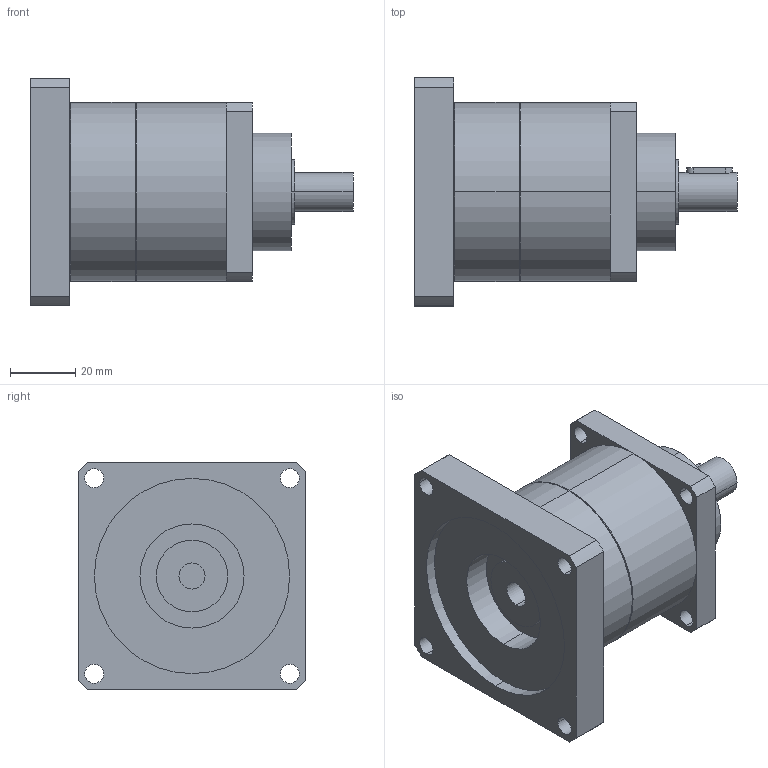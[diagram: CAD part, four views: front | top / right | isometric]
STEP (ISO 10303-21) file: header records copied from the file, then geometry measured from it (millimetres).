
FILE_DESCRIPTION(('CoCreate Modeling STEP Export'),'2;1');
FILE_NAME('GPT55_ig-3-4-5-7-10_12_B5A_8_P30.stp','2014-08-25T14:34:34',(''),(''),'CoCreate Modeling STEP processor for AP214 (Solid Model)','CoCreate Modeling 16.00C 25-Feb-2009 (C) Parametric Technology GmbH','');
FILE_SCHEMA(('AUTOMOTIVE_DESIGN { 1 0 10303 214 1 1 1 1 }'));
Length unit declared in the file: millimetre
Products named in the file (2): GPT55_ig-3-4-5-7-10_12_B5A_8_P30
Assembly tree (1 placements, depth 2):
  GPT55_ig-3-4-5-7-10_12_B5A_8_P30
    GPT55_ig-3-4-5-7-10_12_B5A_8_P30
Bounding box: 99 x 70 x 70 mm (x, y, z)
Volume: 192460.5 mm3; surface area: 30070.3 mm2
Topology: 1 solids, 1 shells, 77 faces, 205 edges, 140 vertices
Faces by surface type: cylinder 46, plane 27, cone 4
Entity records: 2520 total; most frequent: CARTESIAN_POINT 711, ORIENTED_EDGE 410, DIRECTION 318, EDGE_CURVE 205, VERTEX_POINT 140, AXIS2_PLACEMENT_3D 117, EDGE_LOOP 103, VECTOR 84
